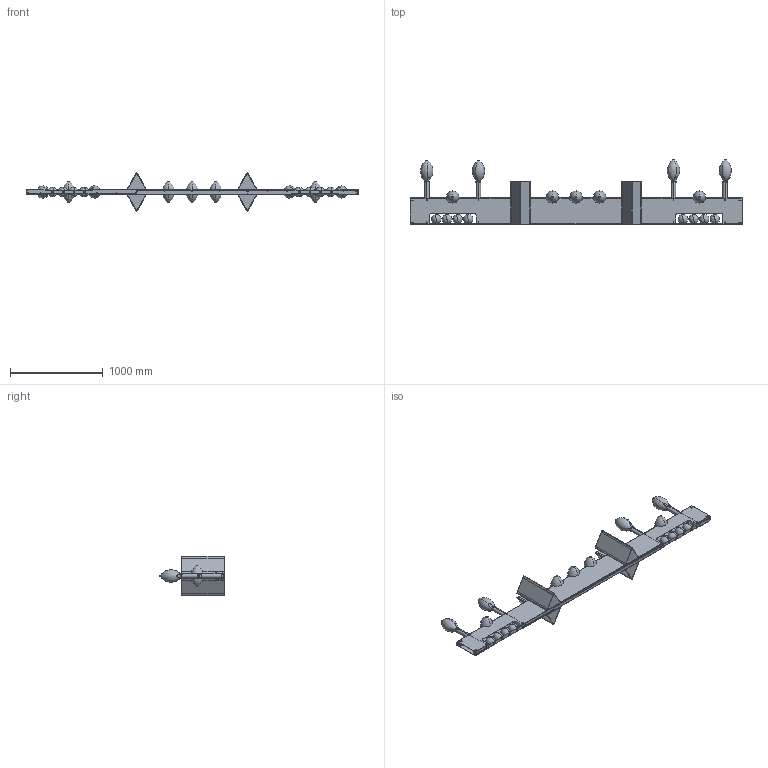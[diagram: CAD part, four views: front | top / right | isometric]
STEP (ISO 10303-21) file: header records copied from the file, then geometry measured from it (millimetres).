
FILE_DESCRIPTION (( 'STEP AP203' ), '1' );
FILE_NAME ('_WALL-ASSY.STEP', '2009-09-11T18:12:52', ( 'Innovation First, Inc.' ), ( 'Innovation First, Inc.' ), 'SwSTEP 2.0', 'SolidWorks 2009', '' );
FILE_SCHEMA (( 'CONFIG_CONTROL_DESIGN' ));
Length unit declared in the file: inch
Products named in the file (25): VRC10-WALL-SIDE-B RevB; VRC10-WALL-SIDE-T RevB; VRC10-WALL-JOINT RevB; VRC10-GOAL-ASSY; VRC10-GOAL-SIDE; Football; Small-Ball; VRC10-BALL-TEE RevB; _WALL-ASSY; _CENTER-WALL-ASSY; VRC10-WALL-CENTER-T RevB; VRC10-WALL-CENTER-B RevB; _SIDE-WALL-ASSY; VRC10-WALL-MNT; VRC10-WALL-MNT RevA; PEM-S_PEM S-0420-X; AVDEL-01801-00412; VRC10-GOAL-SIDE-H RevB; Tape-Vertical-21; VRC09-GOAL-BASE RevA; VRC10-PVC-POST; SBS_SBS2520-0500SS; SCREW-832-0500; NUT-832-NYLOCK; SPP10SMS-0500ZC
Assembly tree (161 placements, depth 4):
  _WALL-ASSY
    SCREW-832-0500  x16
    Football  x9
    NUT-832-NYLOCK  x16
    SPP10SMS-0500ZC  x28
    VRC10-PVC-POST  x4
    Small-Ball  x8
    SBS_SBS2520-0500SS  x8
    _CENTER-WALL-ASSY
      VRC10-WALL-CENTER-T RevB
      AVDEL-01801-00412  x13
      VRC10-WALL-CENTER-B RevB
    VRC10-GOAL-ASSY  x4
      VRC10-GOAL-SIDE-H RevB
      Tape-Vertical-21
      VRC09-GOAL-BASE RevA
      VRC10-GOAL-SIDE
    VRC10-BALL-TEE RevB  x4
    _SIDE-WALL-ASSY  x2
      VRC10-WALL-JOINT RevB
      AVDEL-01801-00412
      VRC10-WALL-MNT RevA
      PEM-S_PEM S-0420-X
      VRC10-WALL-SIDE-T RevB
      VRC10-WALL-MNT
        PEM-S_PEM S-0420-X  x2
        VRC10-WALL-MNT RevA
      VRC10-WALL-SIDE-B RevB
Bounding box: 3573.07 x 693.9 x 419.79 mm (x, y, z)
Volume: 31710237.4 mm3; surface area: 8805043.7 mm2
Topology: 216 solids, 216 shells, 6052 faces, 14891 edges, 9428 vertices
Faces by surface type: plane 3663, cylinder 1741, cone 312, torus 288, sphere 48
Entity records: 37008 total; most frequent: DIRECTION 5557, CARTESIAN_POINT 5404, ORIENTED_EDGE 4998, EDGE_CURVE 2499, AXIS2_PLACEMENT_3D 1963, VECTOR 1631, LINE 1631, VERTEX_POINT 1594
